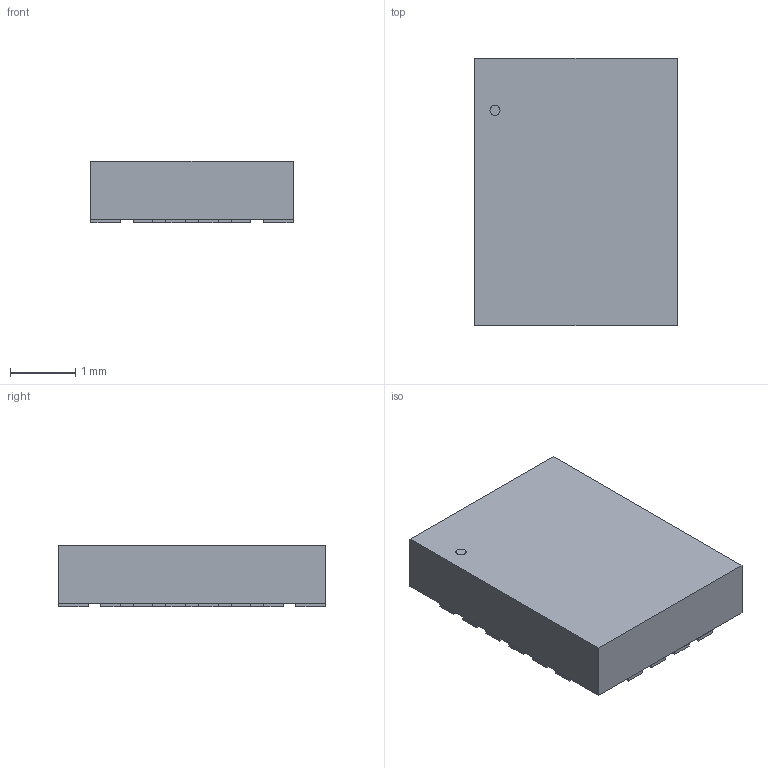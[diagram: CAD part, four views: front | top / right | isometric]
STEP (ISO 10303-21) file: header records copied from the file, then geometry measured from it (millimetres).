
FILE_DESCRIPTION(('STEP AP214'),'1');
FILE_NAME('QFN-20_MPQ2908A_MNP','2025-03-17T07:38:06',(''),(''),'','','');
FILE_SCHEMA(('AUTOMOTIVE_DESIGN'));
Length unit declared in the file: millimetre
Products named in the file (1): product
Bounding box: 3.1 x 4.09 x 0.94 mm (x, y, z)
Volume: 11.6 mm3; surface area: 54.9 mm2
Topology: 23 solids, 23 shells, 135 faces, 267 edges, 178 vertices
Faces by surface type: plane 134, cylinder 1
Full cylindrical faces by diameter (mm): 0.155 x1
Entity records: 3397 total; most frequent: DIRECTION 542, ORIENTED_EDGE 532, CARTESIAN_POINT 317, EDGE_CURVE 266, LINE 264, VECTOR 264, VERTEX_POINT 178, AXIS2_PLACEMENT_3D 139
